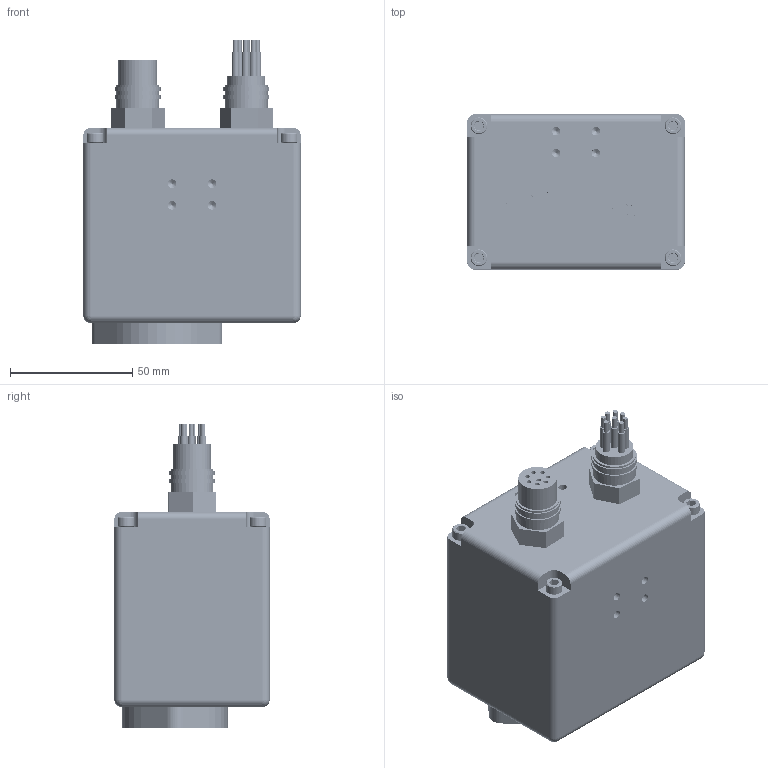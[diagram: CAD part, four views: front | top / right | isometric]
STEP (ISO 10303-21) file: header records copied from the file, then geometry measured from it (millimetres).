
FILE_DESCRIPTION (( 'STEP AP203' ), '1' );
FILE_NAME ('SeeStar_Camera_Module.STEP', '2016-02-18T01:36:39', ( 'delete' ), ( 'Hewlett-Packard Company' ), 'SwSTEP 2.0', 'SolidWorks 2015', '' );
FILE_SCHEMA (( 'CONFIG_CONTROL_DESIGN' ));
Length unit declared in the file: inch
Products named in the file (18): GoPro_Hero_3; SHCS_8-32_0p375_Length_92185A192; SeeStar_Deep_Camera_Housing_Endcap; SHCS_4-40Thread_0.75_Length_92196A113; PCB_10021167; SHCS_6-32_0p375_Length_92196A146; Hero_Bus_Connector; o-ring-014_Stretched; Subconn_MCBH8F; O-ring_039; Subconn_MCBH8M; o-ring-023_AS568 - 023; SeeStar_Deep_Camera_Housing_Port; Battery_Eliminator; Arduino_Pro_Mini_Short pins; SeeStar_Camera_Housing_Body_SSC-MB; SeeStar_Camera_Module; 0p5in_Spacer_94639A714_94639A714
Assembly tree (28 placements, depth 2):
  SeeStar_Camera_Module
    SeeStar_Camera_Housing_Body_SSC-MB
    GoPro_Hero_3
    SeeStar_Deep_Camera_Housing_Endcap
    PCB_10021167
    Hero_Bus_Connector
    Subconn_MCBH8F
    Subconn_MCBH8M
    SeeStar_Deep_Camera_Housing_Port
    Arduino_Pro_Mini_Short pins
    0p5in_Spacer_94639A714_94639A714  x4
    SHCS_8-32_0p375_Length_92185A192  x4
    SHCS_4-40Thread_0.75_Length_92196A113  x4
    SHCS_6-32_0p375_Length_92196A146  x2
    o-ring-014_Stretched  x2
    O-ring_039
    o-ring-023_AS568 - 023
    Battery_Eliminator
Bounding box: 88.9 x 63.5 x 123.95 mm (x, y, z)
Volume: 362721.1 mm3; surface area: 112991.5 mm2
Topology: 75 solids, 139 shells, 3283 faces, 8257 edges, 5324 vertices
Faces by surface type: cylinder 1691, plane 1080, torus 205, cone 172, bspline 82, sphere 53
Entity records: 83115 total; most frequent: CARTESIAN_POINT 21979, DIRECTION 12574, ORIENTED_EDGE 11838, EDGE_CURVE 6095, AXIS2_PLACEMENT_3D 4686, VERTEX_POINT 3971, LINE 3202, VECTOR 3202
